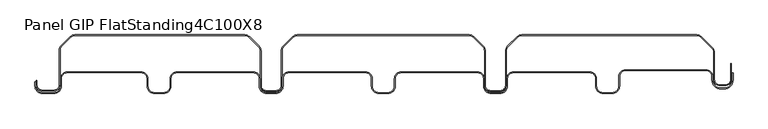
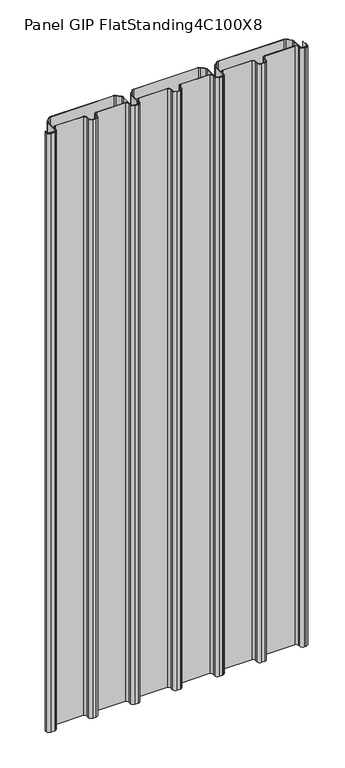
"""IFC4 building model written with IfcOpenShell, lengths in millimetres: plate geometry, Panel_GIP_FlatStanding_4C_100X8_Exiplast : Panel GIP FlatStanding4C100X8."""

from ifc_helpers import new_model, si_unit, point, frame_2d, origin, origin_with_axes, place, context, project, spatial, polyline, circle_curve, trimmed, segment, composite_curve, outline, extrude, source, transform, mapped, element, save


def panel_gip_flatstanding4c100x8_da18e8ea(model_context):
    return source(origin(), model_context, "Body", "SweptSolid", [
        extrude(outline(composite_curve([segment(polyline([(500.9999998, 30.9053767), (500.9999998, 19.95)]), True, "CONTINUOUS"), segment(trimmed(circle_curve(frame_2d((487.7999998, 19.95)), 13.2), [point((500.9999998, 19.95))], [point((487.7999998, 6.75))], False, "CARTESIAN"), True, "CONTINUOUS"), segment(polyline([(487.7999998, 6.75), (482.825804, 6.75)]), True, "CONTINUOUS"), segment(trimmed(circle_curve(frame_2d((482.825804, 19.95)), 13.2), [point((482.825804, 6.75))], [point((469.625804, 19.95))], False, "CARTESIAN"), True, "CONTINUOUS"), segment(polyline([(469.625804, 19.95), (469.625804, 25.325)]), True, "CONTINUOUS"), segment(trimmed(circle_curve(frame_2d((460.825804, 25.325)), 8.8), [point((469.625804, 25.325))], [point((460.825804, 34.125))], True, "CARTESIAN"), True, "CONTINUOUS"), segment(polyline([(460.825804, 34.125), (341.2999998, 34.125)]), True, "CONTINUOUS"), segment(trimmed(circle_curve(frame_2d((341.2999998, 25.325)), 8.8), [point((341.2999998, 34.125))], [point((332.4999998, 25.325))], True, "CARTESIAN"), True, "CONTINUOUS"), segment(polyline([(332.4999998, 25.325), (332.4999998, 11.2)]), True, "CONTINUOUS"), segment(trimmed(circle_curve(frame_2d((321.2999998, 11.2)), 11.2), [point((332.4999998, 11.2))], [point((321.2999998, 0.0))], False, "CARTESIAN"), True, "CONTINUOUS"), segment(polyline([(321.2999998, 0.0), (308.200804, 0.0)]), True, "CONTINUOUS"), segment(trimmed(circle_curve(frame_2d((308.200804, 11.2)), 11.2), [point((308.200804, 0.0))], [point((297.000804, 11.2))], False, "CARTESIAN"), True, "CONTINUOUS"), segment(polyline([(297.000804, 11.2), (297.000804, 22.2)]), True, "CONTINUOUS"), segment(trimmed(circle_curve(frame_2d((288.200804, 22.2)), 8.8), [point((297.000804, 22.2))], [point((288.200804, 31.0))], True, "CARTESIAN"), True, "CONTINUOUS"), segment(polyline([(288.200804, 31.0), (174.7999998, 31.0)]), True, "CONTINUOUS"), segment(trimmed(circle_curve(frame_2d((174.7999998, 22.2)), 8.8), [point((174.7999998, 31.0))], [point((165.9999998, 22.2))], True, "CARTESIAN"), True, "CONTINUOUS"), segment(polyline([(165.9999998, 22.2), (165.9999998, 11.2)]), True, "CONTINUOUS"), segment(trimmed(circle_curve(frame_2d((154.7999998, 11.2)), 11.2), [point((165.9999998, 11.2))], [point((154.7999998, 0.0))], False, "CARTESIAN"), True, "CONTINUOUS"), segment(polyline([(154.7999998, 0.0), (141.700804, 0.0)]), True, "CONTINUOUS"), segment(trimmed(circle_curve(frame_2d((141.700804, 11.2)), 11.2), [point((141.700804, 0.0))], [point((130.500804, 11.2))], False, "CARTESIAN"), True, "CONTINUOUS"), segment(polyline([(130.500804, 11.2), (130.500804, 22.2)]), True, "CONTINUOUS"), segment(trimmed(circle_curve(frame_2d((121.700804, 22.2)), 8.8), [point((130.500804, 22.2))], [point((121.700804, 31.0))], True, "CARTESIAN"), True, "CONTINUOUS"), segment(polyline([(121.700804, 31.0), (8.2999998, 31.0)]), True, "CONTINUOUS"), segment(trimmed(circle_curve(frame_2d((8.2999998, 22.2)), 8.8), [point((8.2999998, 31.0))], [point((-0.5000002, 22.2))], True, "CARTESIAN"), True, "CONTINUOUS"), segment(polyline([(-0.5000002, 22.2), (-0.5000002, 11.2)]), True, "CONTINUOUS"), segment(trimmed(circle_curve(frame_2d((-11.7000002, 11.2)), 11.2), [point((-0.5000002, 11.2))], [point((-11.7000002, 0.0))], False, "CARTESIAN"), True, "CONTINUOUS"), segment(polyline([(-11.7000002, 0.0), (-24.799196, 0.0)]), True, "CONTINUOUS"), segment(trimmed(circle_curve(frame_2d((-24.799196, 11.2)), 11.2), [point((-24.799196, 0.0))], [point((-35.999196, 11.2))], False, "CARTESIAN"), True, "CONTINUOUS"), segment(polyline([(-35.999196, 11.2), (-35.999196, 22.2)]), True, "CONTINUOUS"), segment(trimmed(circle_curve(frame_2d((-44.799196, 22.2)), 8.8), [point((-35.999196, 22.2))], [point((-44.799196, 31.0))], True, "CARTESIAN"), True, "CONTINUOUS"), segment(polyline([(-44.799196, 31.0), (-158.2000002, 31.0)]), True, "CONTINUOUS"), segment(trimmed(circle_curve(frame_2d((-158.2000002, 22.2)), 8.8), [point((-158.2000002, 31.0))], [point((-167.0000002, 22.2))], True, "CARTESIAN"), True, "CONTINUOUS"), segment(polyline([(-167.0000002, 22.2), (-167.0000002, 11.2)]), True, "CONTINUOUS"), segment(trimmed(circle_curve(frame_2d((-178.2000002, 11.2)), 11.2), [point((-167.0000002, 11.2))], [point((-178.2000002, 0.0))], False, "CARTESIAN"), True, "CONTINUOUS"), segment(polyline([(-178.2000002, 0.0), (-191.299196, 0.0)]), True, "CONTINUOUS"), segment(trimmed(circle_curve(frame_2d((-191.299196, 11.2)), 11.2), [point((-191.299196, 0.0))], [point((-202.499196, 11.2))], False, "CARTESIAN"), True, "CONTINUOUS"), segment(polyline([(-202.499196, 11.2), (-202.499196, 22.2)]), True, "CONTINUOUS"), segment(trimmed(circle_curve(frame_2d((-211.299196, 22.2)), 8.8), [point((-202.499196, 22.2))], [point((-211.299196, 31.0))], True, "CARTESIAN"), True, "CONTINUOUS"), segment(polyline([(-211.299196, 31.0), (-324.7000002, 31.0)]), True, "CONTINUOUS"), segment(trimmed(circle_curve(frame_2d((-324.7000002, 22.2)), 8.8), [point((-324.7000002, 31.0))], [point((-333.5000002, 22.2))], True, "CARTESIAN"), True, "CONTINUOUS"), segment(polyline([(-333.5000002, 22.2), (-333.5000002, 11.2)]), True, "CONTINUOUS"), segment(trimmed(circle_curve(frame_2d((-344.7000002, 11.2)), 11.2), [point((-333.5000002, 11.2))], [point((-344.7000002, 0.0))], False, "CARTESIAN"), True, "CONTINUOUS"), segment(polyline([(-344.7000002, 0.0), (-357.799196, 0.0)]), True, "CONTINUOUS"), segment(trimmed(circle_curve(frame_2d((-357.799196, 11.2)), 11.2), [point((-357.799196, 0.0))], [point((-368.999196, 11.2))], False, "CARTESIAN"), True, "CONTINUOUS"), segment(polyline([(-368.999196, 11.2), (-368.999196, 22.2)]), True, "CONTINUOUS"), segment(trimmed(circle_curve(frame_2d((-377.799196, 22.2)), 8.8), [point((-368.999196, 22.2))], [point((-377.799196, 31.0))], True, "CARTESIAN"), True, "CONTINUOUS"), segment(polyline([(-377.799196, 31.0), (-487.4500002, 31.0)]), True, "CONTINUOUS"), segment(trimmed(circle_curve(frame_2d((-487.4500002, 22.2)), 8.8), [point((-487.4500002, 31.0))], [point((-496.2500002, 22.2))], True, "CARTESIAN"), True, "CONTINUOUS"), segment(polyline([(-496.2500002, 22.2), (-496.2500002, 11.2)]), True, "CONTINUOUS"), segment(trimmed(circle_curve(frame_2d((-507.4500002, 11.2)), 11.2), [point((-496.2500002, 11.2))], [point((-507.4500002, 0.0))], False, "CARTESIAN"), True, "CONTINUOUS"), segment(polyline([(-507.4500002, 0.0), (-524.299196, 0.0)]), True, "CONTINUOUS"), segment(trimmed(circle_curve(frame_2d((-524.299196, 11.2)), 11.2), [point((-524.299196, 0.0))], [point((-535.499196, 11.2))], False, "CARTESIAN"), True, "CONTINUOUS"), segment(polyline([(-535.499196, 11.2), (-535.499196, 17.1245542), (-534.299196, 17.1245542), (-534.299196, 11.2)]), True, "CONTINUOUS"), segment(trimmed(circle_curve(frame_2d((-524.299196, 11.2)), 10.0), [point((-534.299196, 11.2))], [point((-524.299196, 1.2))], True, "CARTESIAN"), True, "CONTINUOUS"), segment(polyline([(-524.299196, 1.2), (-507.4500002, 1.2)]), True, "CONTINUOUS"), segment(trimmed(circle_curve(frame_2d((-507.4500002, 11.2)), 10.0), [point((-507.4500002, 1.2))], [point((-497.4500002, 11.2))], True, "CARTESIAN"), True, "CONTINUOUS"), segment(polyline([(-497.4500002, 11.2), (-497.4500002, 22.2)]), True, "CONTINUOUS"), segment(trimmed(circle_curve(frame_2d((-487.4500002, 22.2)), 10.0), [point((-497.4500002, 22.2))], [point((-487.4500002, 32.2))], False, "CARTESIAN"), True, "CONTINUOUS"), segment(polyline([(-487.4500002, 32.2), (-377.799196, 32.2)]), True, "CONTINUOUS"), segment(trimmed(circle_curve(frame_2d((-377.799196, 22.2)), 10.0), [point((-377.799196, 32.2))], [point((-367.799196, 22.2))], False, "CARTESIAN"), True, "CONTINUOUS"), segment(polyline([(-367.799196, 22.2), (-367.799196, 11.2)]), True, "CONTINUOUS"), segment(trimmed(circle_curve(frame_2d((-357.799196, 11.2)), 10.0), [point((-367.799196, 11.2))], [point((-357.799196, 1.2))], True, "CARTESIAN"), True, "CONTINUOUS"), segment(polyline([(-357.799196, 1.2), (-344.7000002, 1.2)]), True, "CONTINUOUS"), segment(trimmed(circle_curve(frame_2d((-344.7000002, 11.2)), 10.0), [point((-344.7000002, 1.2))], [point((-334.7000002, 11.2))], True, "CARTESIAN"), True, "CONTINUOUS"), segment(polyline([(-334.7000002, 11.2), (-334.7000002, 22.2)]), True, "CONTINUOUS"), segment(trimmed(circle_curve(frame_2d((-324.7000002, 22.2)), 10.0), [point((-334.7000002, 22.2))], [point((-324.7000002, 32.2))], False, "CARTESIAN"), True, "CONTINUOUS"), segment(polyline([(-324.7000002, 32.2), (-211.299196, 32.2)]), True, "CONTINUOUS"), segment(trimmed(circle_curve(frame_2d((-211.299196, 22.2)), 10.0), [point((-211.299196, 32.2))], [point((-201.299196, 22.2))], False, "CARTESIAN"), True, "CONTINUOUS"), segment(polyline([(-201.299196, 22.2), (-201.299196, 11.2)]), True, "CONTINUOUS"), segment(trimmed(circle_curve(frame_2d((-191.299196, 11.2)), 10.0), [point((-201.299196, 11.2))], [point((-191.299196, 1.2))], True, "CARTESIAN"), True, "CONTINUOUS"), segment(polyline([(-191.299196, 1.2), (-178.2000002, 1.2)]), True, "CONTINUOUS"), segment(trimmed(circle_curve(frame_2d((-178.2000002, 11.2)), 10.0), [point((-178.2000002, 1.2))], [point((-168.2000002, 11.2))], True, "CARTESIAN"), True, "CONTINUOUS"), segment(polyline([(-168.2000002, 11.2), (-168.2000002, 22.2)]), True, "CONTINUOUS"), segment(trimmed(circle_curve(frame_2d((-158.2000002, 22.2)), 10.0), [point((-168.2000002, 22.2))], [point((-158.2000002, 32.2))], False, "CARTESIAN"), True, "CONTINUOUS"), segment(polyline([(-158.2000002, 32.2), (-44.799196, 32.2)]), True, "CONTINUOUS"), segment(trimmed(circle_curve(frame_2d((-44.799196, 22.2)), 10.0), [point((-44.799196, 32.2))], [point((-34.799196, 22.2))], False, "CARTESIAN"), True, "CONTINUOUS"), segment(polyline([(-34.799196, 22.2), (-34.799196, 11.2)]), True, "CONTINUOUS"), segment(trimmed(circle_curve(frame_2d((-24.799196, 11.2)), 10.0), [point((-34.799196, 11.2))], [point((-24.799196, 1.2))], True, "CARTESIAN"), True, "CONTINUOUS"), segment(polyline([(-24.799196, 1.2), (-11.7000002, 1.2)]), True, "CONTINUOUS"), segment(trimmed(circle_curve(frame_2d((-11.7000002, 11.2)), 10.0), [point((-11.7000002, 1.2))], [point((-1.7000002, 11.2))], True, "CARTESIAN"), True, "CONTINUOUS"), segment(polyline([(-1.7000002, 11.2), (-1.7000002, 22.2)]), True, "CONTINUOUS"), segment(trimmed(circle_curve(frame_2d((8.2999998, 22.2)), 10.0), [point((-1.7000002, 22.2))], [point((8.2999998, 32.2))], False, "CARTESIAN"), True, "CONTINUOUS"), segment(polyline([(8.2999998, 32.2), (121.700804, 32.2)]), True, "CONTINUOUS"), segment(trimmed(circle_curve(frame_2d((121.700804, 22.2)), 10.0), [point((121.700804, 32.2))], [point((131.700804, 22.2))], False, "CARTESIAN"), True, "CONTINUOUS"), segment(polyline([(131.700804, 22.2), (131.700804, 11.2)]), True, "CONTINUOUS"), segment(trimmed(circle_curve(frame_2d((141.700804, 11.2)), 10.0), [point((131.700804, 11.2))], [point((141.700804, 1.2))], True, "CARTESIAN"), True, "CONTINUOUS"), segment(polyline([(141.700804, 1.2), (154.7999998, 1.2)]), True, "CONTINUOUS"), segment(trimmed(circle_curve(frame_2d((154.7999998, 11.2)), 10.0), [point((154.7999998, 1.2))], [point((164.7999998, 11.2))], True, "CARTESIAN"), True, "CONTINUOUS"), segment(polyline([(164.7999998, 11.2), (164.7999998, 22.2)]), True, "CONTINUOUS"), segment(trimmed(circle_curve(frame_2d((174.7999998, 22.2)), 10.0), [point((164.7999998, 22.2))], [point((174.7999998, 32.2))], False, "CARTESIAN"), True, "CONTINUOUS"), segment(polyline([(174.7999998, 32.2), (288.200804, 32.2)]), True, "CONTINUOUS"), segment(trimmed(circle_curve(frame_2d((288.200804, 22.2)), 10.0), [point((288.200804, 32.2))], [point((298.200804, 22.2))], False, "CARTESIAN"), True, "CONTINUOUS"), segment(polyline([(298.200804, 22.2), (298.200804, 11.2)]), True, "CONTINUOUS"), segment(trimmed(circle_curve(frame_2d((308.200804, 11.2)), 10.0), [point((298.200804, 11.2))], [point((308.200804, 1.2))], True, "CARTESIAN"), True, "CONTINUOUS"), segment(polyline([(308.200804, 1.2), (321.2999998, 1.2)]), True, "CONTINUOUS"), segment(trimmed(circle_curve(frame_2d((321.2999998, 11.2)), 10.0), [point((321.2999998, 1.2))], [point((331.2999998, 11.2))], True, "CARTESIAN"), True, "CONTINUOUS"), segment(polyline([(331.2999998, 11.2), (331.2999998, 25.325)]), True, "CONTINUOUS"), segment(trimmed(circle_curve(frame_2d((341.2999998, 25.325)), 10.0), [point((331.2999998, 25.325))], [point((341.2999998, 35.325))], False, "CARTESIAN"), True, "CONTINUOUS"), segment(polyline([(341.2999998, 35.325), (460.825804, 35.325)]), True, "CONTINUOUS"), segment(trimmed(circle_curve(frame_2d((460.825804, 25.325)), 10.0), [point((460.825804, 35.325))], [point((470.825804, 25.325))], False, "CARTESIAN"), True, "CONTINUOUS"), segment(polyline([(470.825804, 25.325), (470.825804, 19.95)]), True, "CONTINUOUS"), segment(trimmed(circle_curve(frame_2d((482.825804, 19.95)), 12.0), [point((470.825804, 19.95))], [point((482.825804, 7.95))], True, "CARTESIAN"), True, "CONTINUOUS"), segment(polyline([(482.825804, 7.95), (487.7999998, 7.95)]), True, "CONTINUOUS"), segment(trimmed(circle_curve(frame_2d((487.7999998, 19.95)), 12.0), [point((487.7999998, 7.95))], [point((499.7999998, 19.95))], True, "CARTESIAN"), True, "CONTINUOUS"), segment(polyline([(499.7999998, 19.95), (499.7999998, 30.9053767), (500.9999998, 30.9053767)]), True, "CONTINUOUS")], self_intersect=False)), origin_with_axes(), (0.0, 0.0, 1.0), 2500.0),
        extrude(outline(composite_curve([segment(polyline([(498.5781564, 44.8512381), (498.5781564, 20.9475016)]), True, "CONTINUOUS"), segment(trimmed(circle_curve(frame_2d((489.3781564, 20.9475016)), 9.2), [point((498.5781564, 20.9475016))], [point((489.3781564, 11.7475016))], False, "CARTESIAN"), True, "CONTINUOUS"), segment(polyline([(489.3781564, 11.7475016), (481.3564673, 11.7475016)]), True, "CONTINUOUS"), segment(trimmed(circle_curve(frame_2d((481.3564673, 20.9475016)), 9.2), [point((481.3564673, 11.7475016))], [point((472.1564673, 20.9475016))], False, "CARTESIAN"), True, "CONTINUOUS"), segment(polyline([(472.1564673, 20.9475016), (472.1564673, 61.143427)]), True, "CONTINUOUS"), segment(trimmed(circle_curve(frame_2d((463.3564673, 61.143427)), 8.8), [point((472.1564673, 61.143427))], [point((469.5790069, 67.3659667))], True, "CARTESIAN"), True, "CONTINUOUS"), segment(polyline([(469.5790069, 67.3659667), (453.2493713, 83.6956023)]), True, "CONTINUOUS"), segment(trimmed(circle_curve(frame_2d((447.0268316, 77.4730627)), 8.8), [point((453.2493713, 83.6956023))], [point((447.0268316, 86.2730627))], True, "CARTESIAN"), True, "CONTINUOUS"), segment(polyline([(447.0268316, 86.2730627), (187.270292, 86.2730627)]), True, "CONTINUOUS"), segment(trimmed(circle_curve(frame_2d((187.270292, 77.4730627)), 8.8), [point((187.270292, 86.2730627))], [point((181.0477523, 83.6956023))], True, "CARTESIAN"), True, "CONTINUOUS"), segment(polyline([(181.0477523, 83.6956023), (166.9056167, 69.5534667)]), True, "CONTINUOUS"), segment(trimmed(circle_curve(frame_2d((173.1281564, 63.330927)), 8.8), [point((166.9056167, 69.5534667))], [point((164.3281564, 63.330927))], True, "CARTESIAN"), True, "CONTINUOUS"), segment(polyline([(164.3281564, 63.330927), (164.3281564, 12.1975016)]), True, "CONTINUOUS"), segment(trimmed(circle_curve(frame_2d((155.1281564, 12.1975016)), 9.2), [point((164.3281564, 12.1975016))], [point((155.1281564, 2.9975016))], False, "CARTESIAN"), True, "CONTINUOUS"), segment(polyline([(155.1281564, 2.9975016), (141.1689673, 2.9975016)]), True, "CONTINUOUS"), segment(trimmed(circle_curve(frame_2d((141.1689673, 12.1975016)), 9.2), [point((141.1689673, 2.9975016))], [point((131.9689673, 12.1975016))], False, "CARTESIAN"), True, "CONTINUOUS"), segment(polyline([(131.9689673, 12.1975016), (131.9689673, 63.330927)]), True, "CONTINUOUS"), segment(trimmed(circle_curve(frame_2d((123.1689673, 63.330927)), 8.8), [point((131.9689673, 63.330927))], [point((129.3915069, 69.5534667))], True, "CARTESIAN"), True, "CONTINUOUS"), segment(polyline([(129.3915069, 69.5534667), (115.2493713, 83.6956023)]), True, "CONTINUOUS"), segment(trimmed(circle_curve(frame_2d((109.0268316, 77.4730627)), 8.8), [point((115.2493713, 83.6956023))], [point((109.0268316, 86.2730627))], True, "CARTESIAN"), True, "CONTINUOUS"), segment(polyline([(109.0268316, 86.2730627), (-145.729708, 86.2730627)]), True, "CONTINUOUS"), segment(trimmed(circle_curve(frame_2d((-145.729708, 77.4730627)), 8.8), [point((-145.729708, 86.2730627))], [point((-151.9522477, 83.6956023))], True, "CARTESIAN"), True, "CONTINUOUS"), segment(polyline([(-151.9522477, 83.6956023), (-166.0943833, 69.5534667)]), True, "CONTINUOUS"), segment(trimmed(circle_curve(frame_2d((-159.8718436, 63.330927)), 8.8), [point((-166.0943833, 69.5534667))], [point((-168.6718436, 63.330927))], True, "CARTESIAN"), True, "CONTINUOUS"), segment(polyline([(-168.6718436, 63.330927), (-168.6718436, 12.1975016)]), True, "CONTINUOUS"), segment(trimmed(circle_curve(frame_2d((-177.8718436, 12.1975016)), 9.2), [point((-168.6718436, 12.1975016))], [point((-177.8718436, 2.9975016))], False, "CARTESIAN"), True, "CONTINUOUS"), segment(polyline([(-177.8718436, 2.9975016), (-191.8310327, 2.9975016)]), True, "CONTINUOUS"), segment(trimmed(circle_curve(frame_2d((-191.8310327, 12.1975016)), 9.2), [point((-191.8310327, 2.9975016))], [point((-201.0310327, 12.1975016))], False, "CARTESIAN"), True, "CONTINUOUS"), segment(polyline([(-201.0310327, 12.1975016), (-201.0310327, 63.330927)]), True, "CONTINUOUS"), segment(trimmed(circle_curve(frame_2d((-209.8310327, 63.330927)), 8.8), [point((-201.0310327, 63.330927))], [point((-203.6084931, 69.5534667))], True, "CARTESIAN"), True, "CONTINUOUS"), segment(polyline([(-203.6084931, 69.5534667), (-217.7506287, 83.6956023)]), True, "CONTINUOUS"), segment(trimmed(circle_curve(frame_2d((-223.9731684, 77.4730627)), 8.8), [point((-217.7506287, 83.6956023))], [point((-223.9731684, 86.2730627))], True, "CARTESIAN"), True, "CONTINUOUS"), segment(polyline([(-223.9731684, 86.2730627), (-476.2111531, 86.2730627)]), True, "CONTINUOUS"), segment(trimmed(circle_curve(frame_2d((-476.2111531, 77.4730627)), 8.8), [point((-476.2111531, 86.2730627))], [point((-482.4336928, 83.6956023))], True, "CARTESIAN"), True, "CONTINUOUS"), segment(polyline([(-482.4336928, 83.6956023), (-495.6383284, 70.4909667)]), True, "CONTINUOUS"), segment(trimmed(circle_curve(frame_2d((-489.4157887, 64.268427)), 8.8), [point((-495.6383284, 70.4909667))], [point((-498.2157887, 64.268427))], True, "CARTESIAN"), True, "CONTINUOUS"), segment(polyline([(-498.2157887, 64.268427), (-498.2157887, 12.8934417)]), True, "CONTINUOUS"), segment(trimmed(circle_curve(frame_2d((-507.4157887, 12.8934417)), 9.2), [point((-498.2157887, 12.8934417))], [point((-507.4157887, 3.6934417))], False, "CARTESIAN"), True, "CONTINUOUS"), segment(polyline([(-507.4157887, 3.6934417), (-524.4344939, 3.6934417)]), True, "CONTINUOUS"), segment(trimmed(circle_curve(frame_2d((-524.4344939, 12.8934417)), 9.2), [point((-524.4344939, 3.6934417))], [point((-533.6344939, 12.8934417))], False, "CARTESIAN"), True, "CONTINUOUS"), segment(polyline([(-533.6344939, 12.8934417), (-533.6344939, 19.7659281), (-532.4344939, 19.7659281), (-532.4344939, 12.8934417)]), True, "CONTINUOUS"), segment(trimmed(circle_curve(frame_2d((-524.4344939, 12.8934417)), 8.0), [point((-532.4344939, 12.8934417))], [point((-524.4344939, 4.8934417))], True, "CARTESIAN"), True, "CONTINUOUS"), segment(polyline([(-524.4344939, 4.8934417), (-507.4157887, 4.8934417)]), True, "CONTINUOUS"), segment(trimmed(circle_curve(frame_2d((-507.4157887, 12.8934417)), 8.0), [point((-507.4157887, 4.8934417))], [point((-499.4157887, 12.8934417))], True, "CARTESIAN"), True, "CONTINUOUS"), segment(polyline([(-499.4157887, 12.8934417), (-499.4157887, 64.268427)]), True, "CONTINUOUS"), segment(trimmed(circle_curve(frame_2d((-489.4157887, 64.268427)), 10.0), [point((-499.4157887, 64.268427))], [point((-496.4868565, 71.3394949))], False, "CARTESIAN"), True, "CONTINUOUS"), segment(polyline([(-496.4868565, 71.3394949), (-483.2822209, 84.5441305)]), True, "CONTINUOUS"), segment(trimmed(circle_curve(frame_2d((-476.2111531, 77.4730627)), 10.0), [point((-483.2822209, 84.5441305))], [point((-476.2111531, 87.4730627))], False, "CARTESIAN"), True, "CONTINUOUS"), segment(polyline([(-476.2111531, 87.4730627), (-223.9731684, 87.4730627)]), True, "CONTINUOUS"), segment(trimmed(circle_curve(frame_2d((-223.9731684, 77.4730627)), 10.0), [point((-223.9731684, 87.4730627))], [point((-216.9021005, 84.5441305))], False, "CARTESIAN"), True, "CONTINUOUS"), segment(polyline([(-216.9021005, 84.5441305), (-202.7599649, 70.4019949)]), True, "CONTINUOUS"), segment(trimmed(circle_curve(frame_2d((-209.8310327, 63.330927)), 10.0), [point((-202.7599649, 70.4019949))], [point((-199.8310327, 63.330927))], False, "CARTESIAN"), True, "CONTINUOUS"), segment(polyline([(-199.8310327, 63.330927), (-199.8310327, 12.1975016)]), True, "CONTINUOUS"), segment(trimmed(circle_curve(frame_2d((-191.8310327, 12.1975016)), 8.0), [point((-199.8310327, 12.1975016))], [point((-191.8310327, 4.1975016))], True, "CARTESIAN"), True, "CONTINUOUS"), segment(polyline([(-191.8310327, 4.1975016), (-177.8718436, 4.1975016)]), True, "CONTINUOUS"), segment(trimmed(circle_curve(frame_2d((-177.8718436, 12.1975016)), 8.0), [point((-177.8718436, 4.1975016))], [point((-169.8718436, 12.1975016))], True, "CARTESIAN"), True, "CONTINUOUS"), segment(polyline([(-169.8718436, 12.1975016), (-169.8718436, 63.330927)]), True, "CONTINUOUS"), segment(trimmed(circle_curve(frame_2d((-159.8718436, 63.330927)), 10.0), [point((-169.8718436, 63.330927))], [point((-166.9429114, 70.4019949))], False, "CARTESIAN"), True, "CONTINUOUS"), segment(polyline([(-166.9429114, 70.4019949), (-152.8007758, 84.5441305)]), True, "CONTINUOUS"), segment(trimmed(circle_curve(frame_2d((-145.729708, 77.4730627)), 10.0), [point((-152.8007758, 84.5441305))], [point((-145.729708, 87.4730627))], False, "CARTESIAN"), True, "CONTINUOUS"), segment(polyline([(-145.729708, 87.4730627), (109.0268316, 87.4730627)]), True, "CONTINUOUS"), segment(trimmed(circle_curve(frame_2d((109.0268316, 77.4730627)), 10.0), [point((109.0268316, 87.4730627))], [point((116.0978995, 84.5441305))], False, "CARTESIAN"), True, "CONTINUOUS"), segment(polyline([(116.0978995, 84.5441305), (130.2400351, 70.4019949)]), True, "CONTINUOUS"), segment(trimmed(circle_curve(frame_2d((123.1689673, 63.330927)), 10.0), [point((130.2400351, 70.4019949))], [point((133.1689673, 63.330927))], False, "CARTESIAN"), True, "CONTINUOUS"), segment(polyline([(133.1689673, 63.330927), (133.1689673, 12.1975016)]), True, "CONTINUOUS"), segment(trimmed(circle_curve(frame_2d((141.1689673, 12.1975016)), 8.0), [point((133.1689673, 12.1975016))], [point((141.1689673, 4.1975016))], True, "CARTESIAN"), True, "CONTINUOUS"), segment(polyline([(141.1689673, 4.1975016), (155.1281564, 4.1975016)]), True, "CONTINUOUS"), segment(trimmed(circle_curve(frame_2d((155.1281564, 12.1975016)), 8.0), [point((155.1281564, 4.1975016))], [point((163.1281564, 12.1975016))], True, "CARTESIAN"), True, "CONTINUOUS"), segment(polyline([(163.1281564, 12.1975016), (163.1281564, 63.330927)]), True, "CONTINUOUS"), segment(trimmed(circle_curve(frame_2d((173.1281564, 63.330927)), 10.0), [point((163.1281564, 63.330927))], [point((166.0570886, 70.4019949))], False, "CARTESIAN"), True, "CONTINUOUS"), segment(polyline([(166.0570886, 70.4019949), (180.1992242, 84.5441305)]), True, "CONTINUOUS"), segment(trimmed(circle_curve(frame_2d((187.270292, 77.4730627)), 10.0), [point((180.1992242, 84.5441305))], [point((187.270292, 87.4730627))], False, "CARTESIAN"), True, "CONTINUOUS"), segment(polyline([(187.270292, 87.4730627), (447.0268316, 87.4730627)]), True, "CONTINUOUS"), segment(trimmed(circle_curve(frame_2d((447.0268316, 77.4730627)), 10.0), [point((447.0268316, 87.4730627))], [point((454.0978995, 84.5441305))], False, "CARTESIAN"), True, "CONTINUOUS"), segment(polyline([(454.0978995, 84.5441305), (470.4275351, 68.2144949)]), True, "CONTINUOUS"), segment(trimmed(circle_curve(frame_2d((463.3564673, 61.143427)), 10.0), [point((470.4275351, 68.2144949))], [point((473.3564673, 61.143427))], False, "CARTESIAN"), True, "CONTINUOUS"), segment(polyline([(473.3564673, 61.143427), (473.3564673, 20.9475016)]), True, "CONTINUOUS"), segment(trimmed(circle_curve(frame_2d((481.3564673, 20.9475016)), 8.0), [point((473.3564673, 20.9475016))], [point((481.3564673, 12.9475016))], True, "CARTESIAN"), True, "CONTINUOUS"), segment(polyline([(481.3564673, 12.9475016), (489.3781564, 12.9475016)]), True, "CONTINUOUS"), segment(trimmed(circle_curve(frame_2d((489.3781564, 20.9475016)), 8.0), [point((489.3781564, 12.9475016))], [point((497.3781564, 20.9475016))], True, "CARTESIAN"), True, "CONTINUOUS"), segment(polyline([(497.3781564, 20.9475016), (497.3781564, 44.8512381), (498.5781564, 44.8512381)]), True, "CONTINUOUS")], self_intersect=False)), origin_with_axes(), (0.0, 0.0, 1.0), 2500.0),
    ])


if __name__ == "__main__":
    model = new_model("IFC4")
    model_context = context("Model", 3, world=origin())
    ifc_project = project(units=[si_unit("LENGTHUNIT", "METRE", prefix="MILLI")], contexts=[model_context])
    site = spatial("IfcSite", under=ifc_project)
    building = spatial("IfcBuilding", under=site)
    placement = place(None, origin())
    panel_gip_flatstanding4c100x8_shape = panel_gip_flatstanding4c100x8_da18e8ea(model_context)
    element("IfcPlate", 1, ObjectType="Panel_GIP_FlatStanding_4C_100X8_Exiplast : Panel GIP FlatStanding4C100X8", at=placement, inside=building, context=model_context, shape_type="MappedRepresentation", body=[
        mapped(panel_gip_flatstanding4c100x8_shape, transform((0.0, 0.0, 0.0), x_axis=(1.0, 0.0, 0.0), y_axis=(0.0, 1.0, 0.0), z_axis=(0.0, 0.0, 1.0))),
    ])
    save(model, "model.ifc")
